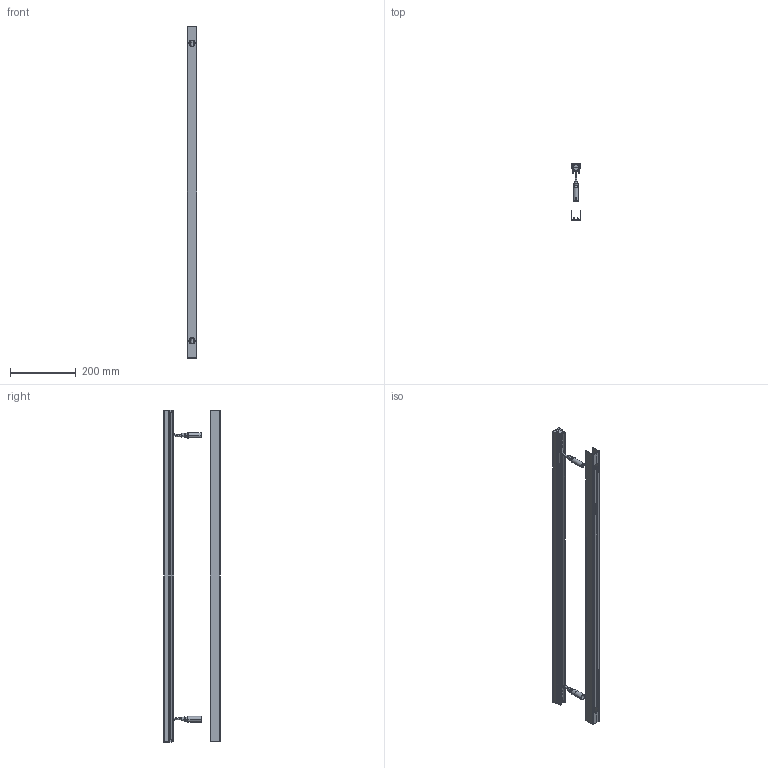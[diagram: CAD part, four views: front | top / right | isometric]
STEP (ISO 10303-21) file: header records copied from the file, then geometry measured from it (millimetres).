
FILE_DESCRIPTION (( 'STEP AP203' ), '1' );
FILE_NAME ('Overlinear Plastic.STEP', '2019-07-11T06:30:19', ( '' ), ( '' ), 'SwSTEP 2.0', 'SolidWorks 2018', '' );
FILE_SCHEMA (( 'CONFIG_CONTROL_DESIGN' ));
Length unit declared in the file: millimetre
Products named in the file (457): User_Library-RGB_LED_Zwart_ASMT-YTC2-0AA02_ASMT-YTC2-0AA02^User_Library-RGB_LED_Zwart_ASMT-YTC2-0AA02_DL9_DDS900(2)_DDS900; SOT-23^D1_DDS900(2)_DDS900; DL32^DDS900(2)_DDS900; res_0603^C6_DDS900(2)_DDS900; C20^DDS900(2)_DDS900; R24^DDS900(2)_DDS900; res_0603^R6_DDS900(2)_DDS900; User_Library-RGB_LED_Zwart_ASMT-YTC2-0AA02_Pootje_RGB_LED^User_Library-RGB_LED_Zwart_ASMT-YTC2-0AA02_DL25_DDS900(2)_DDS900; DL52^DDS900(2)_DDS900; User_Library-Array-1206-4Way-Var2-1_Deckel_1^res-Array-1206-4Way_RR11_DDS900(2)_DDS900; User_Library-Array-1206-4Way-Var2-1_K_X_F6rper_1^res-Array-1206-4Way_RR13_DDS900(2)_DDS900; User_Library-RGB_LED_Zwart_ASMT-YTC2-0AA02_Pootje_RGB_LED^User_Library-RGB_LED_Zwart_ASMT-YTC2-0AA02_DL16_DDS900(2)_DDS900; User_Library-RGB_LED_Zwart_ASMT-YTC2-0AA02^DL9_DDS900(2)_DDS900; res_0603^R20_DDS900(2)_DDS900; R25^DDS900(2)_DDS900; res_0603^R7_DDS900(2)_DDS900; R16^DDS900(2)_DDS900; Board^DDS900(2)_DDS900; User_Library-RGB_LED_Zwart_ASMT-YTC2-0AA02^DL28_DDS900(2)_DDS900; User_Library-Array-1206-4Way-Var2-1_K_X_F6rper_1^res-Array-1206-4Way_RR9_DDS900(2)_DDS900; DL16^DDS900(2)_DDS900; User_Library-RGB_LED_Zwart_ASMT-YTC2-0AA02_Pootje_RGB_LED^User_Library-RGB_LED_Zwart_ASMT-YTC2-0AA02_DL22_DDS900(2)_DDS900; User_Library-RGB_LED_Zwart_ASMT-YTC2-0AA02^DL33_DDS900(2)_DDS900; User_Library-RGB_LED_Zwart_ASMT-YTC2-0AA02^DL14_DDS900(2)_DDS900; User_Library-Array-1206-4Way-Var2-1_Deckel_1^res-Array-1206-4Way_RR16_DDS900(2)_DDS900; User_Library-RGB_LED_Zwart_ASMT-YTC2-0AA02_ASMT-YTC2-0AA02^User_Library-RGB_LED_Zwart_ASMT-YTC2-0AA02_DL34_DDS900(2)_DDS900; res_0603^R19_DDS900(2)_DDS900; User_Library-Array-1206-4Way-Var2-1_K_X_F6rper_1^res-Array-1206-4Way_RR15_DDS900(2)_DDS900; User_Library-RGB_LED_Zwart_ASMT-YTC2-0AA02^DL48_DDS900(2)_DDS900; res-Array-1206-4Way^RR5_DDS900(2)_DDS900; User_Library-RGB_LED_Zwart_ASMT-YTC2-0AA02_Pootje_RGB_LED^User_Library-RGB_LED_Zwart_ASMT-YTC2-0AA02_DL27_DDS900(2)_DDS900; RR14^DDS900(2)_DDS900; R21^DDS900(2)_DDS900; User_Library-RGB_LED_Zwart_ASMT-YTC2-0AA02_ASMT-YTC2-0AA02^User_Library-RGB_LED_Zwart_ASMT-YTC2-0AA02_DL10_DDS900(2)_DDS900; User_Library-RGB_LED_Zwart_ASMT-YTC2-0AA02_ASMT-YTC2-0AA02^User_Library-RGB_LED_Zwart_ASMT-YTC2-0AA02_DL40_DDS900(2)_DDS900; User_Library-RGB_LED_Zwart_ASMT-YTC2-0AA02^DL27_DDS900(2)_DDS900; User_Library-RGB_LED_Zwart_ASMT-YTC2-0AA02^DL24_DDS900(2)_DDS900; C15^DDS900(2)_DDS900; User_Library-RGB_LED_Zwart_ASMT-YTC2-0AA02_Pootje_RGB_LED^User_Library-RGB_LED_Zwart_ASMT-YTC2-0AA02_DL20_DDS900(2)_DDS900; User_Library-RGB_LED_Zwart_ASMT-YTC2-0AA02_Pootje_RGB_LED^User_Library-RGB_LED_Zwart_ASMT-YTC2-0AA02_DL36_DDS900(2)_DDS900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
Assembly tree (737 placements, depth 6):
  Overlinear Plastic
    Base Overlinear 1000
    Connettore ICC 2P F
    Connettore ICC 2P M
    Supporto Overlinear 1000
    Tappo Overlinear  x2
    DDS900
      DDS900(2)^DDS900
        C20^DDS900(2)_DDS900
          cap_0805^C20_DDS900(2)_DDS900
        C19^DDS900(2)_DDS900
          cap_0805^C19_DDS900(2)_DDS900
        C18^DDS900(2)_DDS900
          cap_0805^C18_DDS900(2)_DDS900
        C17^DDS900(2)_DDS900
          cap_0805^C17_DDS900(2)_DDS900
        R28^DDS900(2)_DDS900
          res_1206^R28_DDS900(2)_DDS900
        R27^DDS900(2)_DDS900
          res_1206^R27_DDS900(2)_DDS900
        R26^DDS900(2)_DDS900
          res_1206^R26_DDS900(2)_DDS900
        R25^DDS900(2)_DDS900
          res_1206^R25_DDS900(2)_DDS900
        RR16^DDS900(2)_DDS900
          res-Array-1206-4Way^RR16_DDS900(2)_DDS900
            User_Library-Array-1206-4Way-Var2-1_Anschl_X_FCsse_1^res-Array-1206-4Way_RR16_DDS900(2)_DDS900
            User_Library-Array-1206-4Way-Var2-1_K_X_F6rper_1^res-Array-1206-4Way_RR16_DDS900(2)_DDS900
            User_Library-Array-1206-4Way-Var2-1_Deckel_1^res-Array-1206-4Way_RR16_DDS900(2)_DDS900
            User_Library-Array-1206-4Way-Var2-1_Beschriftung_1^res-Array-1206-4Way_RR16_DDS900(2)_DDS900
        RR15^DDS900(2)_DDS900
          res-Array-1206-4Way^RR15_DDS900(2)_DDS900
            User_Library-Array-1206-4Way-Var2-1_Anschl_X_FCsse_1^res-Array-1206-4Way_RR15_DDS900(2)_DDS900
            User_Library-Array-1206-4Way-Var2-1_K_X_F6rper_1^res-Array-1206-4Way_RR15_DDS900(2)_DDS900
            User_Library-Array-1206-4Way-Var2-1_Deckel_1^res-Array-1206-4Way_RR15_DDS900(2)_DDS900
            User_Library-Array-1206-4Way-Var2-1_Beschriftung_1^res-Array-1206-4Way_RR15_DDS900(2)_DDS900
        RR14^DDS900(2)_DDS900
          res-Array-1206-4Way^RR14_DDS900(2)_DDS900
            User_Library-Array-1206-4Way-Var2-1_Anschl_X_FCsse_1^res-Array-1206-4Way_RR14_DDS900(2)_DDS900
            User_Library-Array-1206-4Way-Var2-1_K_X_F6rper_1^res-Array-1206-4Way_RR14_DDS900(2)_DDS900
            User_Library-Array-1206-4Way-Var2-1_Deckel_1^res-Array-1206-4Way_RR14_DDS900(2)_DDS900
            User_Library-Array-1206-4Way-Var2-1_Beschriftung_1^res-Array-1206-4Way_RR14_DDS900(2)_DDS900
        RR13^DDS900(2)_DDS900
          res-Array-1206-4Way^RR13_DDS900(2)_DDS900
            User_Library-Array-1206-4Way-Var2-1_Anschl_X_FCsse_1^res-Array-1206-4Way_RR13_DDS900(2)_DDS900
            User_Library-Array-1206-4Way-Var2-1_K_X_F6rper_1^res-Array-1206-4Way_RR13_DDS900(2)_DDS900
            User_Library-Array-1206-4Way-Var2-1_Deckel_1^res-Array-1206-4Way_RR13_DDS900(2)_DDS900
            User_Library-Array-1206-4Way-Var2-1_Beschriftung_1^res-Array-1206-4Way_RR13_DDS900(2)_DDS900
        RR12^DDS900(2)_DDS900
          res-Array-1206-4Way^RR12_DDS900(2)_DDS900
            User_Library-Array-1206-4Way-Var2-1_Anschl_X_FCsse_1^res-Array-1206-4Way_RR12_DDS900(2)_DDS900
            User_Library-Array-1206-4Way-Var2-1_K_X_F6rper_1^res-Array-1206-4Way_RR12_DDS900(2)_DDS900
            User_Library-Array-1206-4Way-Var2-1_Deckel_1^res-Array-1206-4Way_RR12_DDS900(2)_DDS900
            User_Library-Array-1206-4Way-Var2-1_Beschriftung_1^res-Array-1206-4Way_RR12_DDS900(2)_DDS900
        RR11^DDS900(2)_DDS900
          res-Array-1206-4Way^RR11_DDS900(2)_DDS900
            User_Library-Array-1206-4Way-Var2-1_Anschl_X_FCsse_1^res-Array-1206-4Way_RR11_DDS900(2)_DDS900
            User_Library-Array-1206-4Way-Var2-1_K_X_F6rper_1^res-Array-1206-4Way_RR11_DDS900(2)_DDS900
            User_Library-Array-1206-4Way-Var2-1_Deckel_1^res-Array-1206-4Way_RR11_DDS900(2)_DDS900
            User_Library-Array-1206-4Way-Var2-1_Beschriftung_1^res-Array-1206-4Way_RR11_DDS900(2)_DDS900
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Bounding box: 30 x 172.41 x 1009.2 mm (x, y, z)
Volume: 340502.1 mm3; surface area: 490811.5 mm2
Topology: 871 solids, 871 shells, 20052 faces, 49886 edges, 32192 vertices
Faces by surface type: plane 13399, bspline 4912, cylinder 1665, sphere 64, torus 8, cone 4
Entity records: 668201 total; most frequent: CARTESIAN_POINT 239458, ORIENTED_EDGE 85432, DIRECTION 59930, EDGE_CURVE 42716, LINE 30622, VECTOR 30622, VERTEX_POINT 28202, EDGE_LOOP 17120
